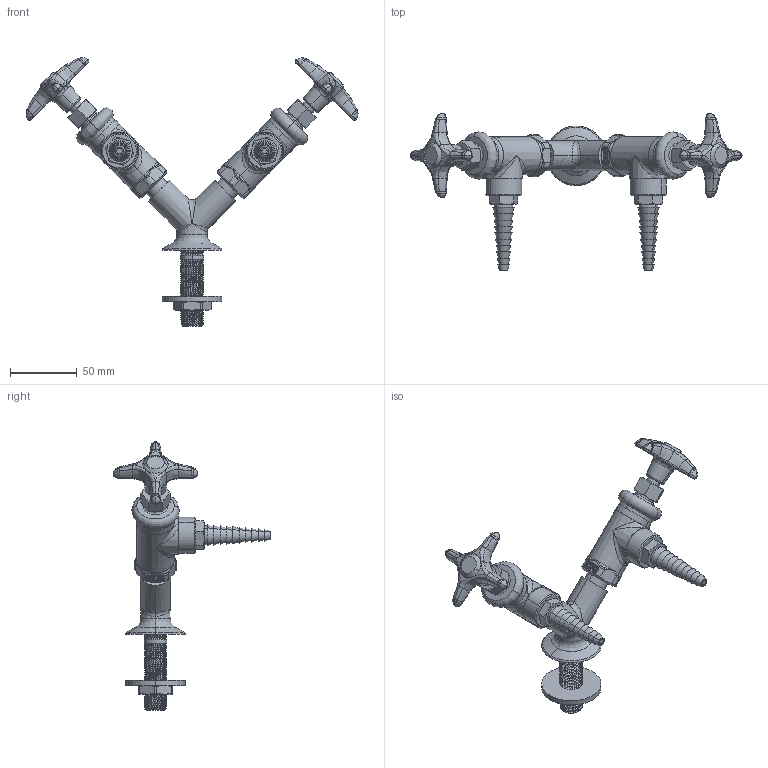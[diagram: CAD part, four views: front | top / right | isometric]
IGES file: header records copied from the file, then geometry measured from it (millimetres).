
Start section:  PTC IGES file: LGN3-A12M-65.igs
Global section: file name: LGN3-A12M-65.igs; native system: Creo Parametric by PTC Inc.; preprocessor: 2014500; author: usch_engrender; organization: Unknown; date: 20160105.155221; units: inch
Bounding box: 248.18 x 117.97 x 201.02 mm (x, y, z)
Volume: 170532.5 mm3; surface area: 71321.2 mm2
Topology: 1 solids, 10 shells, 1303 faces, 2999 edges, 1768 vertices
Faces by surface type: bspline 709, revolution 594
